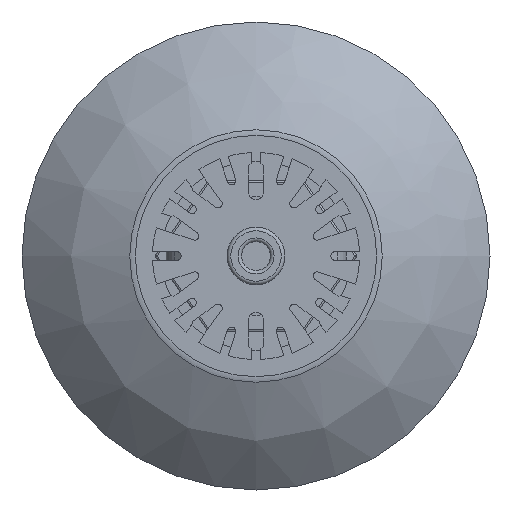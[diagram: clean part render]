
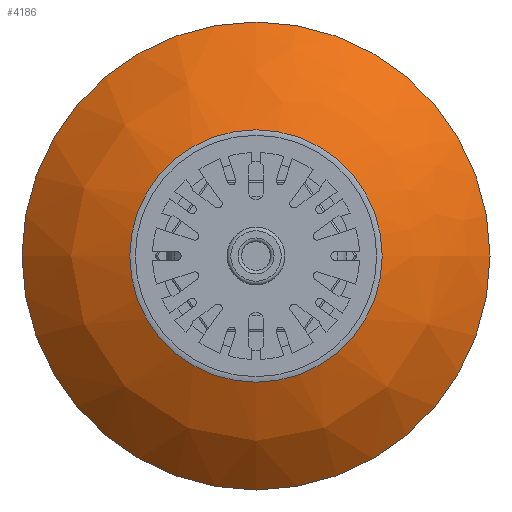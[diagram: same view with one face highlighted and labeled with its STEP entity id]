
A CAD part, front view. The second image highlights one B-rep face of the part: STEP entity #4186.
In plain terms, the highlighted free-form (B-spline) face has degree [2, 2] with [3, 9] control points.
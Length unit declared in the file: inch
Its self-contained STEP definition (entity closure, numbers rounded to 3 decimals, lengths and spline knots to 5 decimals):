
#859=(
BOUNDED_SURFACE()
B_SPLINE_SURFACE(2,2,((#6245,#6246,#6247,#6248,#6249,#6250,#6251,#6252,
#6253),(#6254,#6255,#6256,#6257,#6258,#6259,#6260,#6261,#6262),(#6263,#6264,
#6265,#6266,#6267,#6268,#6269,#6270,#6271)),.UNSPECIFIED.,.F.,.T.,.F.)
B_SPLINE_SURFACE_WITH_KNOTS((3,3),(3,2,2,2,3),(-1.25422,-0.72061),
(-3.14159,-1.5708,0.,1.5708,3.14159),
 .UNSPECIFIED.)
GEOMETRIC_REPRESENTATION_ITEM()
RATIONAL_B_SPLINE_SURFACE(((1.,0.707,1.,0.707,1.,
0.707,1.,0.707,1.),(0.965,0.682,
0.965,0.682,0.965,0.682,
0.965,0.682,0.965),(1.,0.707,
1.,0.707,1.,0.707,1.,0.707,1.)))
REPRESENTATION_ITEM('')
SURFACE()
);
#984=FACE_OUTER_BOUND('',#1215,.T.);
#1215=EDGE_LOOP('',(#2725,#2726,#2727,#2728,#2729,#2730));
#1460=CIRCLE('',#4487,0.87685);
#1461=CIRCLE('',#4488,0.87685);
#1463=CIRCLE('',#4490,1.625);
#1464=CIRCLE('',#4491,1.625);
#1465=CIRCLE('',#4492,1.7);
#1695=VERTEX_POINT('',#6240);
#1696=VERTEX_POINT('',#6241);
#1697=VERTEX_POINT('',#6272);
#1698=VERTEX_POINT('',#6273);
#2097=EDGE_CURVE('',#1695,#1696,#1460,.T.);
#2098=EDGE_CURVE('',#1696,#1695,#1461,.T.);
#2100=EDGE_CURVE('',#1697,#1698,#1463,.T.);
#2101=EDGE_CURVE('',#1698,#1697,#1464,.T.);
#2102=EDGE_CURVE('',#1698,#1696,#1465,.T.);
#2725=ORIENTED_EDGE('',*,*,#2100,.F.);
#2726=ORIENTED_EDGE('',*,*,#2101,.F.);
#2727=ORIENTED_EDGE('',*,*,#2102,.T.);
#2728=ORIENTED_EDGE('',*,*,#2098,.T.);
#2729=ORIENTED_EDGE('',*,*,#2097,.T.);
#2730=ORIENTED_EDGE('',*,*,#2102,.F.);
#4186=ADVANCED_FACE('',(#984),#859,.F.);
#4487=AXIS2_PLACEMENT_3D('',#6242,#4969,#4970);
#4488=AXIS2_PLACEMENT_3D('',#6243,#4971,#4972);
#4490=AXIS2_PLACEMENT_3D('',#6274,#4975,#4976);
#4491=AXIS2_PLACEMENT_3D('',#6275,#4977,#4978);
#4492=AXIS2_PLACEMENT_3D('',#6276,#4979,#4980);
#4969=DIRECTION('center_axis',(0.,1.,0.));
#4970=DIRECTION('ref_axis',(1.,0.,0.));
#4971=DIRECTION('center_axis',(0.,1.,0.));
#4972=DIRECTION('ref_axis',(1.,0.,0.));
#4975=DIRECTION('center_axis',(0.,1.,0.));
#4976=DIRECTION('ref_axis',(1.,0.,0.));
#4977=DIRECTION('center_axis',(0.,1.,0.));
#4978=DIRECTION('ref_axis',(1.,0.,0.));
#4979=DIRECTION('center_axis',(0.,0.,
1.));
#4980=DIRECTION('ref_axis',(-1.,0.,0.));
#6240=CARTESIAN_POINT('',(0.87685,2.05621,0.));
#6241=CARTESIAN_POINT('',(-0.87685,2.05621,0.));
#6242=CARTESIAN_POINT('Origin',(0.,2.05621,0.));
#6243=CARTESIAN_POINT('Origin',(0.,2.05621,0.));
#6245=CARTESIAN_POINT('Ctrl Pts',(-0.87685,2.05621,0.));
#6246=CARTESIAN_POINT('Ctrl Pts',(-0.87685,2.05621,0.87685));
#6247=CARTESIAN_POINT('Ctrl Pts',(0.,2.05621,
0.87685));
#6248=CARTESIAN_POINT('Ctrl Pts',(0.87685,2.05621,0.87685));
#6249=CARTESIAN_POINT('Ctrl Pts',(0.87685,2.05621,0.));
#6250=CARTESIAN_POINT('Ctrl Pts',(0.87685,2.05621,-0.87685));
#6251=CARTESIAN_POINT('Ctrl Pts',(0.,2.05621,
-0.87685));
#6252=CARTESIAN_POINT('Ctrl Pts',(-0.87685,2.05621,-0.87685));
#6253=CARTESIAN_POINT('Ctrl Pts',(-0.87685,2.05621,0.));
#6254=CARTESIAN_POINT('Ctrl Pts',(-1.31841,2.20086,0.));
#6255=CARTESIAN_POINT('Ctrl Pts',(-1.31841,2.20086,1.31841));
#6256=CARTESIAN_POINT('Ctrl Pts',(0.,2.20086,
1.31841));
#6257=CARTESIAN_POINT('Ctrl Pts',(1.31841,2.20086,1.31841));
#6258=CARTESIAN_POINT('Ctrl Pts',(1.31841,2.20086,0.));
#6259=CARTESIAN_POINT('Ctrl Pts',(1.31841,2.20086,-1.31841));
#6260=CARTESIAN_POINT('Ctrl Pts',(0.,2.20086,
-1.31841));
#6261=CARTESIAN_POINT('Ctrl Pts',(-1.31841,2.20086,-1.31841));
#6262=CARTESIAN_POINT('Ctrl Pts',(-1.31841,2.20086,0.));
#6263=CARTESIAN_POINT('Ctrl Pts',(-1.625,2.55,0.));
#6264=CARTESIAN_POINT('Ctrl Pts',(-1.625,2.55,1.625));
#6265=CARTESIAN_POINT('Ctrl Pts',(0.,2.55,1.625));
#6266=CARTESIAN_POINT('Ctrl Pts',(1.625,2.55,1.625));
#6267=CARTESIAN_POINT('Ctrl Pts',(1.625,2.55,0.));
#6268=CARTESIAN_POINT('Ctrl Pts',(1.625,2.55,-1.625));
#6269=CARTESIAN_POINT('Ctrl Pts',(0.,2.55,-1.625));
#6270=CARTESIAN_POINT('Ctrl Pts',(-1.625,2.55,-1.625));
#6271=CARTESIAN_POINT('Ctrl Pts',(-1.625,2.55,0.));
#6272=CARTESIAN_POINT('',(1.625,2.55,0.));
#6273=CARTESIAN_POINT('',(-1.625,2.55,0.));
#6274=CARTESIAN_POINT('Origin',(0.,2.55,0.));
#6275=CARTESIAN_POINT('Origin',(0.,2.55,0.));
#6276=CARTESIAN_POINT('Origin',(-0.34761,3.67173,0.));
